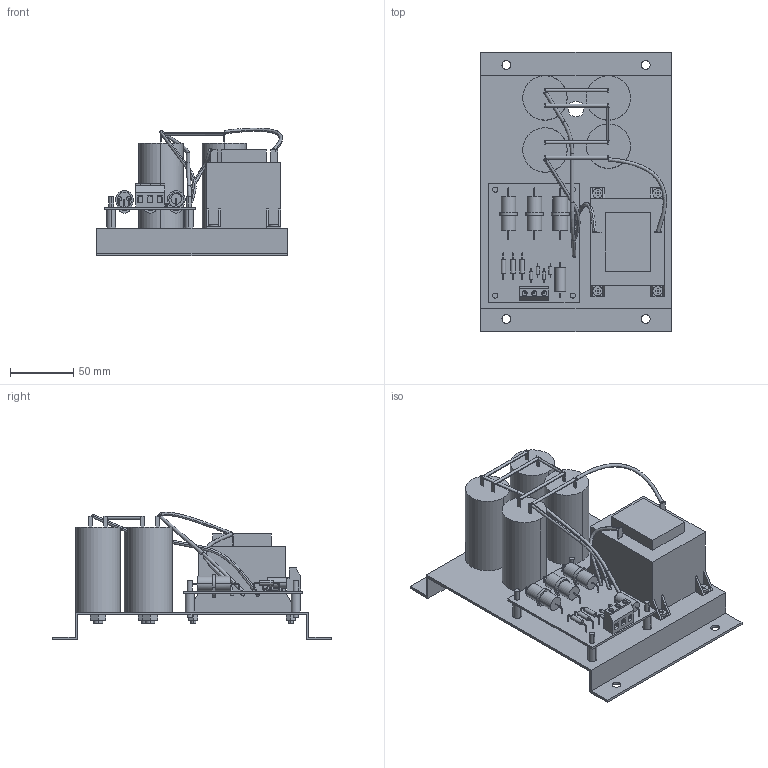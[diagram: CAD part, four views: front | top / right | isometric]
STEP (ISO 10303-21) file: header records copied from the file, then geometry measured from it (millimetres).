
FILE_DESCRIPTION((''),'2;1');
FILE_NAME('SB105215_3D-SOFTWARE_COLOUR','2013-09-03T',('SESA231906'),('Schneider-Electric'),'PRO/ENGINEER BY PARAMETRIC TECHNOLOGY CORPORATION, 2011410','PRO/ENGINEER BY PARAMETRIC TECHNOLOGY CORPORATION, 2011410','');
FILE_SCHEMA(('CONFIG_CONTROL_DESIGN'));
Length unit declared in the file: millimetre
Products named in the file (1): SB105215_3D-SOFTWARE_COLOUR
Bounding box: 150 x 220 x 100.79 mm (x, y, z)
Volume: 598035.5 mm3; surface area: 154987.1 mm2
Topology: 1 solids, 1 shells, 682 faces, 1722 edges, 1109 vertices
Faces by surface type: plane 394, cylinder 226, torus 50, bspline 12
Entity records: 23067 total; most frequent: CARTESIAN_POINT 6132, DIRECTION 3548, ORIENTED_EDGE 3444, EDGE_CURVE 1722, AXIS2_PLACEMENT_3D 1226, VERTEX_POINT 1109, VECTOR 1096, LINE 1096
